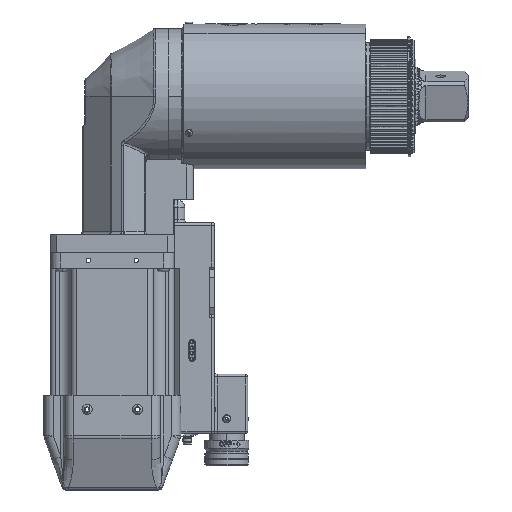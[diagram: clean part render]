
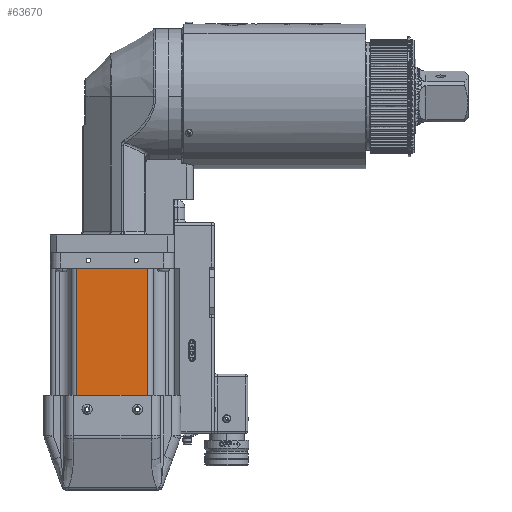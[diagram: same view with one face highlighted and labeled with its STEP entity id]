
A CAD part, left-side view. The second image highlights one B-rep face of the part: STEP entity #63670.
In plain terms, the highlighted planar face has unit normal (-1, 0, 0).
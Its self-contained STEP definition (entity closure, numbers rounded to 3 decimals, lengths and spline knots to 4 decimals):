
#1865 = VECTOR ( 'NONE', #16819, 39.3701 ) ;
#10931 = ORIENTED_EDGE ( 'NONE', *, *, #133083, .T. ) ;
#16819 = DIRECTION ( 'NONE',  ( 0., 0., 1. ) ) ;
#22852 = PLANE ( 'NONE',  #155178 ) ;
#23719 = DIRECTION ( 'NONE',  ( 0., -1., 0. ) ) ;
#27326 = EDGE_LOOP ( 'NONE', ( #10931, #142970, #159132, #153146 ) ) ;
#27642 = DIRECTION ( 'NONE',  ( 0., 0., 1. ) ) ;
#41823 = LINE ( 'NONE', #149077, #84708 ) ;
#43216 = CARTESIAN_POINT ( 'NONE',  ( -2.2045, 1.267, -13.385 ) ) ;
#47942 = VECTOR ( 'NONE', #145168, 39.3701 ) ;
#53817 = CARTESIAN_POINT ( 'NONE',  ( -2.2045, 1.267, -8.58 ) ) ;
#59318 = VERTEX_POINT ( 'NONE', #100077 ) ;
#63670 = ADVANCED_FACE ( 'NONE', ( #101741 ), #22852, .F. ) ;
#64100 = VECTOR ( 'NONE', #93808, 39.3701 ) ;
#66889 = VERTEX_POINT ( 'NONE', #123181 ) ;
#69242 = VERTEX_POINT ( 'NONE', #120475 ) ;
#76892 = DIRECTION ( 'NONE',  ( 1., 0., 0. ) ) ;
#83278 = CARTESIAN_POINT ( 'NONE',  ( -2.2045, -1.273, -13.385 ) ) ;
#84708 = VECTOR ( 'NONE', #27642, 39.3701 ) ;
#93808 = DIRECTION ( 'NONE',  ( 0., 1., 0. ) ) ;
#96561 = LINE ( 'NONE', #83278, #1865 ) ;
#100077 = CARTESIAN_POINT ( 'NONE',  ( -2.2045, -1.273, -13.385 ) ) ;
#101741 = FACE_OUTER_BOUND ( 'NONE', #27326, .T. ) ;
#116598 = VERTEX_POINT ( 'NONE', #174895 ) ;
#118590 = LINE ( 'NONE', #53817, #47942 ) ;
#120475 = CARTESIAN_POINT ( 'NONE',  ( -2.2045, -1.273, -8.58 ) ) ;
#122970 = EDGE_CURVE ( 'NONE', #66889, #116598, #41823, .T. ) ;
#123181 = CARTESIAN_POINT ( 'NONE',  ( -2.2045, 1.267, -13.385 ) ) ;
#133083 = EDGE_CURVE ( 'NONE', #69242, #116598, #118590, .T. ) ;
#142970 = ORIENTED_EDGE ( 'NONE', *, *, #122970, .F. ) ;
#145168 = DIRECTION ( 'NONE',  ( 0., 1., 0. ) ) ;
#149077 = CARTESIAN_POINT ( 'NONE',  ( -2.2045, 1.267, -13.385 ) ) ;
#153146 = ORIENTED_EDGE ( 'NONE', *, *, #162635, .T. ) ;
#155178 = AXIS2_PLACEMENT_3D ( 'NONE', #155835, #76892, #23719 ) ;
#155835 = CARTESIAN_POINT ( 'NONE',  ( -2.2045, 1.267, -13.385 ) ) ;
#159132 = ORIENTED_EDGE ( 'NONE', *, *, #173930, .F. ) ;
#162080 = LINE ( 'NONE', #43216, #64100 ) ;
#162635 = EDGE_CURVE ( 'NONE', #59318, #69242, #96561, .T. ) ;
#173930 = EDGE_CURVE ( 'NONE', #59318, #66889, #162080, .T. ) ;
#174895 = CARTESIAN_POINT ( 'NONE',  ( -2.2045, 1.267, -8.58 ) ) ;
